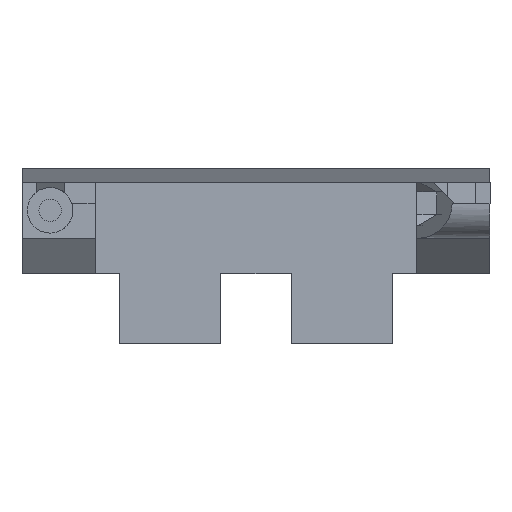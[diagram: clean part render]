
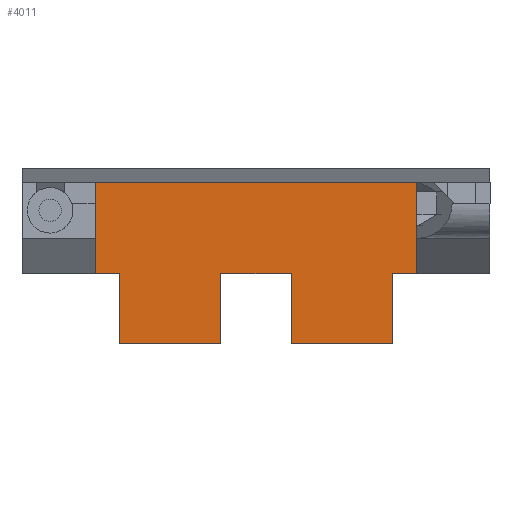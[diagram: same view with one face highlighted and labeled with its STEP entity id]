
A CAD part, front view. The second image highlights one B-rep face of the part: STEP entity #4011.
In plain terms, the highlighted planar face has unit normal (0, -1, 0).
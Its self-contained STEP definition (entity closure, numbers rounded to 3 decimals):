
#172=FACE_OUTER_BOUND('',#385,.T.);
#385=EDGE_LOOP('',(#2823,#2824,#2825,#2826,#2827,#2828,#2829,#2830,#2831,
#2832,#2833,#2834));
#633=LINE('',#5549,#1163);
#708=LINE('',#5711,#1238);
#712=LINE('',#5722,#1242);
#716=LINE('',#5737,#1246);
#720=LINE('',#5748,#1250);
#726=LINE('',#5761,#1256);
#727=LINE('',#5762,#1257);
#728=LINE('',#5763,#1258);
#729=LINE('',#5765,#1259);
#730=LINE('',#5766,#1260);
#731=LINE('',#5768,#1261);
#732=LINE('',#5769,#1262);
#1163=VECTOR('',#4496,10.);
#1238=VECTOR('',#4619,10.);
#1242=VECTOR('',#4627,10.);
#1246=VECTOR('',#4639,10.);
#1250=VECTOR('',#4647,10.);
#1256=VECTOR('',#4663,10.);
#1257=VECTOR('',#4664,10.);
#1258=VECTOR('',#4665,10.);
#1259=VECTOR('',#4666,10.);
#1260=VECTOR('',#4667,10.);
#1261=VECTOR('',#4668,10.);
#1262=VECTOR('',#4669,10.);
#1696=VERTEX_POINT('',#5546);
#1697=VERTEX_POINT('',#5548);
#1759=VERTEX_POINT('',#5708);
#1760=VERTEX_POINT('',#5710);
#1764=VERTEX_POINT('',#5719);
#1765=VERTEX_POINT('',#5721);
#1771=VERTEX_POINT('',#5734);
#1772=VERTEX_POINT('',#5736);
#1776=VERTEX_POINT('',#5745);
#1777=VERTEX_POINT('',#5747);
#1780=VERTEX_POINT('',#5764);
#1781=VERTEX_POINT('',#5767);
#2086=EDGE_CURVE('',#1697,#1696,#633,.T.);
#2166=EDGE_CURVE('',#1760,#1759,#708,.T.);
#2171=EDGE_CURVE('',#1765,#1764,#712,.T.);
#2178=EDGE_CURVE('',#1772,#1771,#716,.T.);
#2183=EDGE_CURVE('',#1777,#1776,#720,.T.);
#2191=EDGE_CURVE('',#1759,#1765,#726,.T.);
#2192=EDGE_CURVE('',#1772,#1764,#727,.T.);
#2193=EDGE_CURVE('',#1771,#1777,#728,.T.);
#2194=EDGE_CURVE('',#1776,#1780,#729,.T.);
#2195=EDGE_CURVE('',#1697,#1780,#730,.T.);
#2196=EDGE_CURVE('',#1781,#1696,#731,.F.);
#2197=EDGE_CURVE('',#1781,#1760,#732,.T.);
#2823=ORIENTED_EDGE('',*,*,#2191,.T.);
#2824=ORIENTED_EDGE('',*,*,#2171,.T.);
#2825=ORIENTED_EDGE('',*,*,#2192,.F.);
#2826=ORIENTED_EDGE('',*,*,#2178,.T.);
#2827=ORIENTED_EDGE('',*,*,#2193,.T.);
#2828=ORIENTED_EDGE('',*,*,#2183,.T.);
#2829=ORIENTED_EDGE('',*,*,#2194,.T.);
#2830=ORIENTED_EDGE('',*,*,#2195,.F.);
#2831=ORIENTED_EDGE('',*,*,#2086,.T.);
#2832=ORIENTED_EDGE('',*,*,#2196,.F.);
#2833=ORIENTED_EDGE('',*,*,#2197,.T.);
#2834=ORIENTED_EDGE('',*,*,#2166,.T.);
#3824=PLANE('',#4248);
#4011=ADVANCED_FACE('',(#172),#3824,.T.);
#4248=AXIS2_PLACEMENT_3D('',#5760,#4661,#4662);
#4496=DIRECTION('',(-1.,0.,0.));
#4619=DIRECTION('',(0.,0.,-1.));
#4627=DIRECTION('',(0.,0.,1.));
#4639=DIRECTION('',(0.,0.,-1.));
#4647=DIRECTION('',(0.,0.,1.));
#4661=DIRECTION('center_axis',(0.,-1.,0.));
#4662=DIRECTION('ref_axis',(0.,0.,-1.));
#4663=DIRECTION('',(1.,0.,0.));
#4664=DIRECTION('',(-1.,0.,0.));
#4665=DIRECTION('',(1.,0.,0.));
#4666=DIRECTION('',(1.,0.,0.));
#4667=DIRECTION('',(0.,0.,-1.));
#4668=DIRECTION('',(0.,0.,-1.));
#4669=DIRECTION('',(1.,0.,0.));
#5546=CARTESIAN_POINT('',(-23.174,-10.2,64.084));
#5548=CARTESIAN_POINT('',(22.626,-10.2,64.084));
#5549=CARTESIAN_POINT('',(-14.024,-10.2,64.084));
#5708=CARTESIAN_POINT('',(-19.674,-10.2,41.078));
#5710=CARTESIAN_POINT('',(-19.674,-10.2,51.084));
#5711=CARTESIAN_POINT('',(-19.674,-10.2,52.581));
#5719=CARTESIAN_POINT('',(-5.274,-10.2,51.078));
#5721=CARTESIAN_POINT('',(-5.274,-10.2,41.078));
#5722=CARTESIAN_POINT('',(-5.274,-10.2,52.581));
#5734=CARTESIAN_POINT('',(4.726,-10.2,41.078));
#5736=CARTESIAN_POINT('',(4.726,-10.2,51.078));
#5737=CARTESIAN_POINT('',(4.726,-10.2,57.581));
#5745=CARTESIAN_POINT('',(19.126,-10.2,51.084));
#5747=CARTESIAN_POINT('',(19.126,-10.2,41.078));
#5748=CARTESIAN_POINT('',(19.126,-10.2,52.587));
#5760=CARTESIAN_POINT('Origin',(27.226,-10.2,64.084));
#5761=CARTESIAN_POINT('',(10.976,-10.2,41.078));
#5762=CARTESIAN_POINT('',(10.976,-10.2,51.078));
#5763=CARTESIAN_POINT('',(23.176,-10.2,41.078));
#5764=CARTESIAN_POINT('',(22.626,-10.2,51.084));
#5765=CARTESIAN_POINT('',(13.476,-10.2,51.084));
#5766=CARTESIAN_POINT('',(22.626,-10.2,51.084));
#5767=CARTESIAN_POINT('',(-23.174,-10.2,51.084));
#5768=CARTESIAN_POINT('',(-23.174,-10.2,64.084));
#5769=CARTESIAN_POINT('',(13.476,-10.2,51.084));
